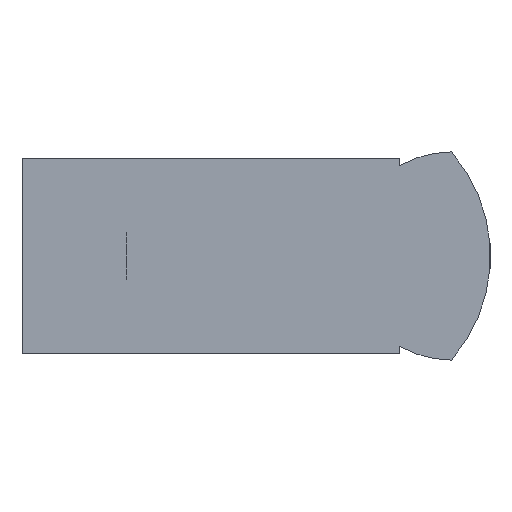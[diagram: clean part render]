
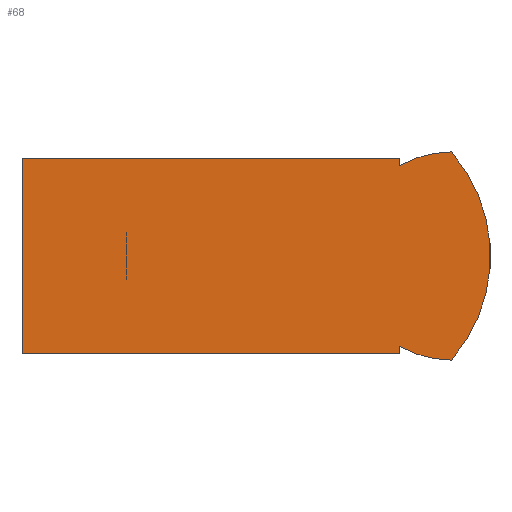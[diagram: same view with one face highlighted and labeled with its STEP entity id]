
A CAD part, left-side view. The second image highlights one B-rep face of the part: STEP entity #68.
In plain terms, the highlighted planar face has unit normal (-1, 0, 0).
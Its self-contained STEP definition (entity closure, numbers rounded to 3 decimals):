
#68 = ADVANCED_FACE( '', ( #153 ), #154, .F. );
#153 = FACE_OUTER_BOUND( '', #258, .T. );
#154 = PLANE( '', #259 );
#258 = EDGE_LOOP( '', ( #394, #395, #396, #397, #398, #399, #400, #401 ) );
#259 = AXIS2_PLACEMENT_3D( '', #402, #403, #404 );
#394 = ORIENTED_EDGE( '', *, *, #622, .F. );
#395 = ORIENTED_EDGE( '', *, *, #623, .T. );
#396 = ORIENTED_EDGE( '', *, *, #593, .T. );
#397 = ORIENTED_EDGE( '', *, *, #624, .F. );
#398 = ORIENTED_EDGE( '', *, *, #625, .F. );
#399 = ORIENTED_EDGE( '', *, *, #626, .T. );
#400 = ORIENTED_EDGE( '', *, *, #627, .F. );
#401 = ORIENTED_EDGE( '', *, *, #628, .F. );
#402 = CARTESIAN_POINT( '', ( -6., -28.416, 0. ) );
#403 = DIRECTION( '', ( 1., 0., 0. ) );
#404 = DIRECTION( '', ( 0., 0., -1. ) );
#593 = EDGE_CURVE( '', #695, #692, #696, .T. );
#622 = EDGE_CURVE( '', #743, #744, #745, .T. );
#623 = EDGE_CURVE( '', #743, #695, #746, .T. );
#624 = EDGE_CURVE( '', #747, #692, #748, .T. );
#625 = EDGE_CURVE( '', #749, #747, #750, .T. );
#626 = EDGE_CURVE( '', #749, #751, #752, .T. );
#627 = EDGE_CURVE( '', #753, #751, #754, .T. );
#628 = EDGE_CURVE( '', #744, #753, #755, .T. );
#692 = VERTEX_POINT( '', #838 );
#695 = VERTEX_POINT( '', #842 );
#696 = LINE( '', #843, #844 );
#743 = VERTEX_POINT( '', #911 );
#744 = VERTEX_POINT( '', #912 );
#745 = CIRCLE( '', #913, 8. );
#746 = LINE( '', #914, #915 );
#747 = VERTEX_POINT( '', #916 );
#748 = LINE( '', #917, #918 );
#749 = VERTEX_POINT( '', #919 );
#750 = LINE( '', #920, #921 );
#751 = VERTEX_POINT( '', #922 );
#752 = LINE( '', #923, #924 );
#753 = VERTEX_POINT( '', #925 );
#754 = CIRCLE( '', #926, 8. );
#755 = CIRCLE( '', #927, 12.167 );
#838 = CARTESIAN_POINT( '', ( -6., 0., 7.5 ) );
#842 = CARTESIAN_POINT( '', ( -6., -29., 7.5 ) );
#843 = CARTESIAN_POINT( '', ( -6., -29., 7.5 ) );
#844 = VECTOR( '', #1021, 1000. );
#911 = CARTESIAN_POINT( '', ( -6., -29., 6.928 ) );
#912 = CARTESIAN_POINT( '', ( -6., -33., 8. ) );
#913 = AXIS2_PLACEMENT_3D( '', #1048, #1049, #1050 );
#914 = CARTESIAN_POINT( '', ( -6., -29., -7.5 ) );
#915 = VECTOR( '', #1051, 1000. );
#916 = CARTESIAN_POINT( '', ( -6., 0., -7.5 ) );
#917 = CARTESIAN_POINT( '', ( -6., 0., -7.5 ) );
#918 = VECTOR( '', #1052, 1000. );
#919 = CARTESIAN_POINT( '', ( -6., -29., -7.5 ) );
#920 = CARTESIAN_POINT( '', ( -6., -29., -7.5 ) );
#921 = VECTOR( '', #1053, 1000. );
#922 = CARTESIAN_POINT( '', ( -6., -29., -6.928 ) );
#923 = CARTESIAN_POINT( '', ( -6., -29., -7.5 ) );
#924 = VECTOR( '', #1054, 1000. );
#925 = CARTESIAN_POINT( '', ( -6., -33., -8. ) );
#926 = AXIS2_PLACEMENT_3D( '', #1055, #1056, #1057 );
#927 = AXIS2_PLACEMENT_3D( '', #1058, #1059, #1060 );
#1021 = DIRECTION( '', ( 0., 1., 0. ) );
#1048 = CARTESIAN_POINT( '', ( -6., -33., 0. ) );
#1049 = DIRECTION( '', ( 1., 0., 0. ) );
#1050 = DIRECTION( '', ( 0., 0., -1. ) );
#1051 = DIRECTION( '', ( 0., 0., 1. ) );
#1052 = DIRECTION( '', ( 0., 0., 1. ) );
#1053 = DIRECTION( '', ( 0., 1., 0. ) );
#1054 = DIRECTION( '', ( 0., 0., 1. ) );
#1055 = CARTESIAN_POINT( '', ( -6., -33., 0. ) );
#1056 = DIRECTION( '', ( 1., 0., 0. ) );
#1057 = DIRECTION( '', ( 0., 0., -1. ) );
#1058 = CARTESIAN_POINT( '', ( -6., -23.833, 0. ) );
#1059 = DIRECTION( '', ( 1., 0., 0. ) );
#1060 = DIRECTION( '', ( 0., 0., -1. ) );
